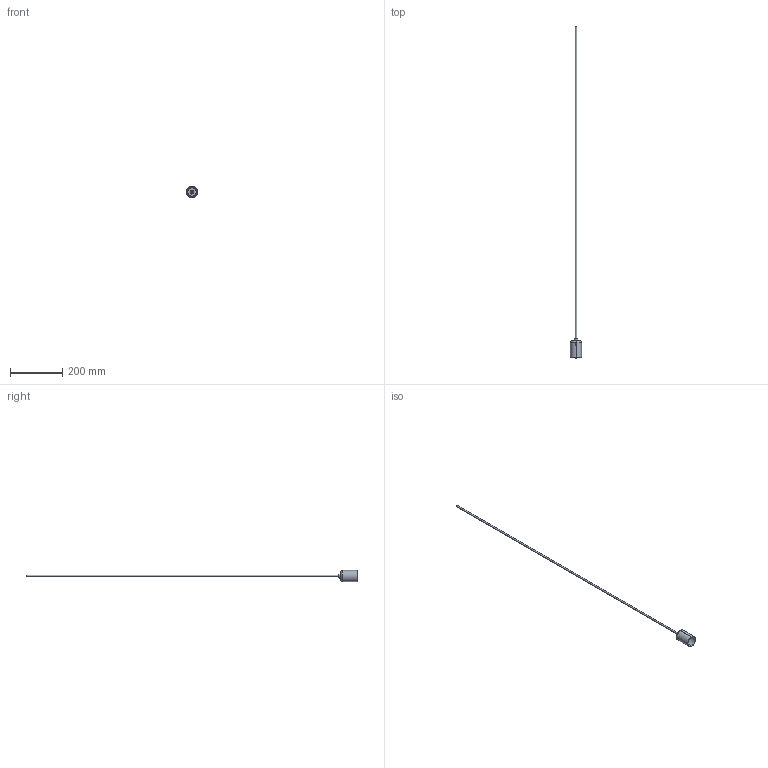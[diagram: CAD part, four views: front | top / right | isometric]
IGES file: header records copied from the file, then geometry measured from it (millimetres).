
Start section: SolidWorks IGES file using analytic representation for surfaces
Global section: file name: F:\GABRYSIA\MODELE 3D\_CAMELEON\CABLE_WWW\CABLE_E27_8670_8667_8668_8664_8663_8654_8652_8653_8648_8647_8666_8665_8662_8661_8660_8658_8657_8656_8655_8651_8650_8646_8645_8644_8643_WWW\CABLE_E27.IGS; native system: SolidWorks 2017; preprocessor: SolidWorks 2017; author: Togambi; date: 200518.165737; units: millimetre
Bounding box: 42.5 x 1267.2 x 42.5 mm (x, y, z)
Surface area: 43418 mm2 (no closed solid volume)
Topology: 0 solids, 0 shells, 78 faces, 1652 edges, 1652 vertices
Faces by surface type: revolution 49, bspline 29
